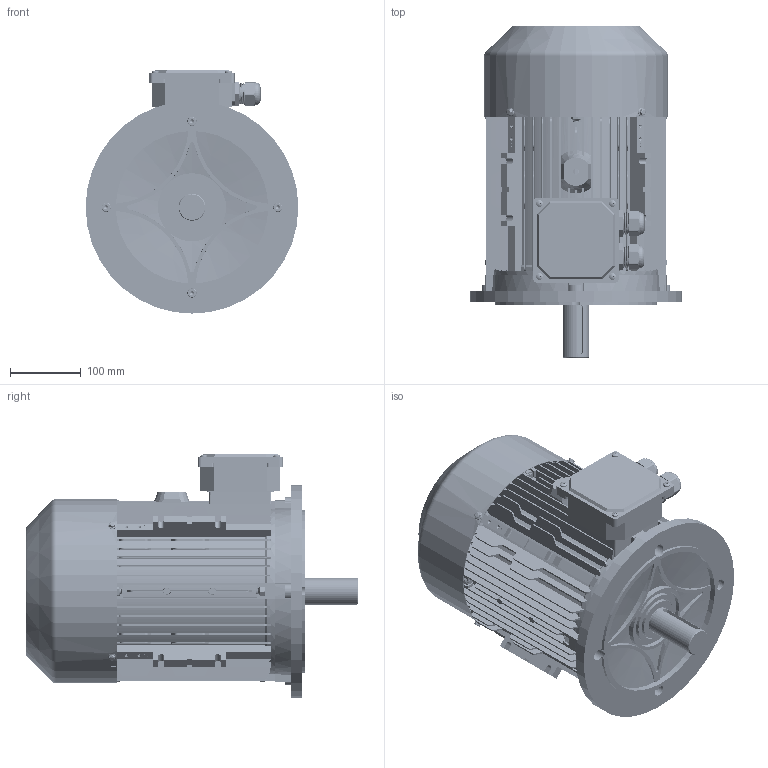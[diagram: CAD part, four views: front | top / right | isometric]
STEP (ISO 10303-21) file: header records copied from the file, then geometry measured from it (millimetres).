
FILE_DESCRIPTION (( 'STEP AP203' ), '1' );
FILE_NAME ('ME3-132S B5 3D.STEP', '2024-07-27T02:15:37', ( 'User' ), ( 'China' ), 'SwSTEP 2.0', 'SolidWorks 2018', '' );
FILE_SCHEMA (( 'CONFIG_CONTROL_DESIGN' ));
Length unit declared in the file: millimetre
Products named in the file (19): MS112-132 諉盄碟釱; 40X58X7蚐猾; M24 蹟杶; ME3-132B5傷裔; M24 蹟杶簸; spring lock washers--normal type gb_GB_FASTENER_WASHER_SW 8; hexagon socket head cap screws gb_GB_FASTENER_SCREWS_HSHCS M8X40-S; hexagon socket head cap screws gb_GB_FASTENER_SCREWS_HSHCS M8X45-S; hex nuts-style normal-grades ab gb_GB_HEXAGON_TYPE10 M8X1-S; hexagon socket head cap screws gb_GB_FASTENER_SCREWS_HSHCS M8X35-S; ME3-132瑞欶; ME3-132 B3傷裔; ME3-132S B5   3D; hex flange bolts-heavy grade b gb_GB_FASTENER_BOLT_HFBB M5X10-S; deep groove ball bearings gb_Rolling bearings 6308 GB 276-94; cross recessed pan head screws gb_GB_CROSS_SCREWS_TYPE1 M5X8-8  H type-S; ME3-132S蛌粣; ME3-132S儂褲; MS112-132諉盄碟裔
Assembly tree (45 placements, depth 2):
  ME3-132S B5   3D
    ME3-132S儂褲
    ME3-132 B3傷裔
    deep groove ball bearings gb_Rolling bearings 6308 GB 276-94  x2
    ME3-132S蛌粣
    MS112-132 諉盄碟釱
    M24 蹟杶  x2
    M24 蹟杶簸  x2
    hexagon socket head cap screws gb_GB_FASTENER_SCREWS_HSHCS M8X40-S  x4
    hex nuts-style normal-grades ab gb_GB_HEXAGON_TYPE10 M8X1-S  x7
    ME3-132瑞欶
    hex flange bolts-heavy grade b gb_GB_FASTENER_BOLT_HFBB M5X10-S  x4
    cross recessed pan head screws gb_GB_CROSS_SCREWS_TYPE1 M5X8-8  H type-S  x8
    MS112-132諉盄碟裔
    40X58X7蚐猾
    ME3-132B5傷裔
    spring lock washers--normal type gb_GB_FASTENER_WASHER_SW 8  x4
    hexagon socket head cap screws gb_GB_FASTENER_SCREWS_HSHCS M8X45-S  x3
    hexagon socket head cap screws gb_GB_FASTENER_SCREWS_HSHCS M8X35-S
Bounding box: 300 x 467.96 x 343 mm (x, y, z)
Volume: 3614475.1 mm3; surface area: 1728579.3 mm2
Topology: 47 solids, 48 shells, 6976 faces, 17284 edges, 10374 vertices
Faces by surface type: cone 2450, plane 2242, cylinder 1940, torus 224, sphere 76, bspline 44
Entity records: 140956 total; most frequent: CARTESIAN_POINT 35540, ORIENTED_EDGE 21964, DIRECTION 20800, EDGE_CURVE 10982, AXIS2_PLACEMENT_3D 7054, VERTEX_POINT 6955, LINE 6692, VECTOR 6692
